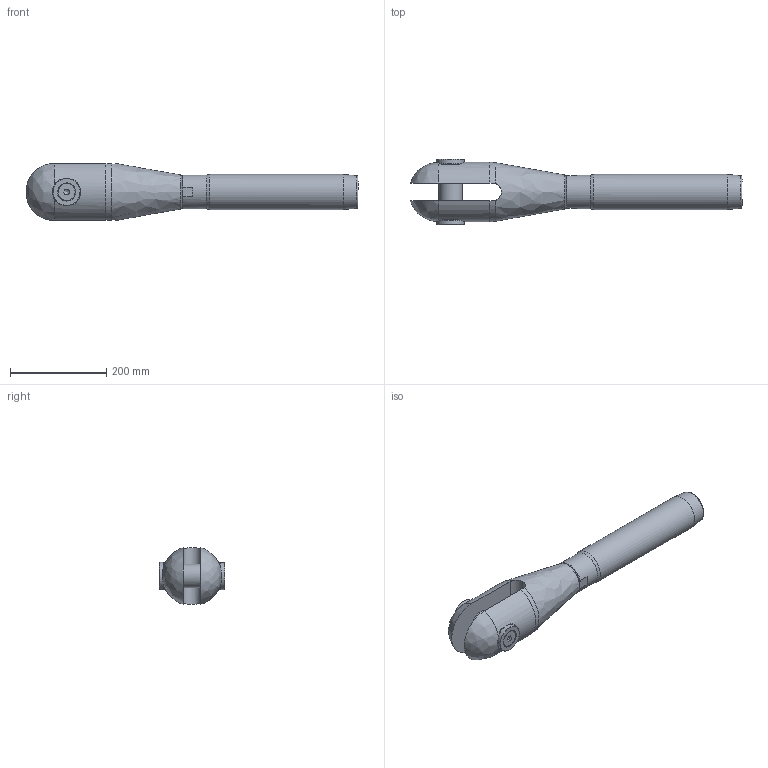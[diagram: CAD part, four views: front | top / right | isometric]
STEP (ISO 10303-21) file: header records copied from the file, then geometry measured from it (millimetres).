
FILE_DESCRIPTION(/* description */ (''),/* implementation_level */ '2;1');
FILE_NAME(/* name */ 'MAC-R 34_S355',/* time_stamp */ '2023-05-23T17:52:55+02:00',/* author */ (''),/* organization */ (''),/* preprocessor_version */ 'ST-DEVELOPER v16.5',/* originating_system */ 'Rhino 7.22',/* authorisation */ '');
FILE_SCHEMA (('CONFIG_CONTROL_DESIGN'));
Length unit declared in the file: millimetre
Products named in the file (1): Document
Bounding box: 691.59 x 136.03 x 118.35 mm (x, y, z)
Volume: 3828467.3 mm3; surface area: 333305 mm2
Topology: 7 solids, 7 shells, 87 faces, 245 edges, 171 vertices
Faces by surface type: plane 36, bspline 27, cylinder 24
Full cylindrical faces by diameter (mm): 17.294 x2, 20 x2, 21 x2, 35.4 x2, 49 x1, 51 x2, 57 x2, 60.752 x1, 64 x1, 70 x1, 73.5 x1
Entity records: 3531 total; most frequent: CARTESIAN_POINT 1975, ORIENTED_EDGE 480, EDGE_CURVE 240, VERTEX_POINT 171, EDGE_LOOP 99, B_SPLINE_CURVE_WITH_KNOTS 96, ADVANCED_FACE 87, FACE_OUTER_BOUND 87
